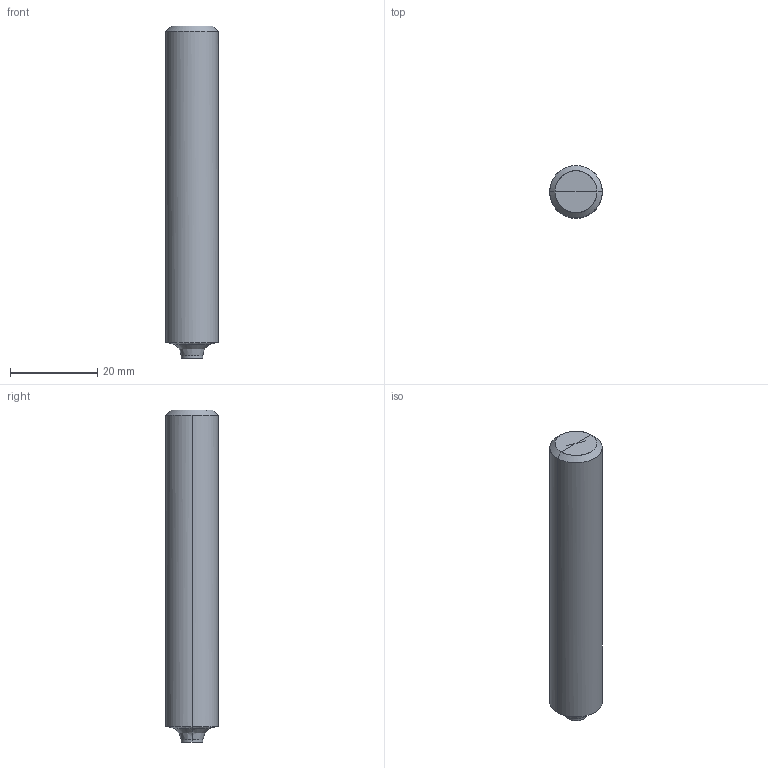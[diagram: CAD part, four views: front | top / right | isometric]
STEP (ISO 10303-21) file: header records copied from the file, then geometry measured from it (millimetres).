
FILE_DESCRIPTION(/* description */ (''),/* implementation_level */ '2;1');
FILE_NAME(/*name*/ '4011-12F-3.0R',/*time_stamp*/'2021-7-21T11:55:36',/*author*/ ('ISBE GmbH'),/*organization*/ ('ISBE GmbH'),/*preprocessor_version*/ 'STEP IO v1.0',/*originating_system*/ '',/*authorisation*/ '');
FILE_SCHEMA (('AUTOMOTIVE_DESIGN'));
Length unit declared in the file: millimetre
Products named in the file (1): Document
Bounding box: 12 x 12 x 76 mm (x, y, z)
Surface area: 3072.9 mm2 (no closed solid volume)
Topology: 0 solids, 20 shells, 20 faces, 84 edges, 80 vertices
Faces by surface type: bspline 20
Entity records: 825 total; most frequent: CARTESIAN_POINT 462, VERTEX_POINT 72, EDGE_CURVE 72, ORIENTED_EDGE 72, EDGE_LOOP 20, FACE_OUTER_BOUND 20, ADVANCED_FACE 20, DIRECTION 16
